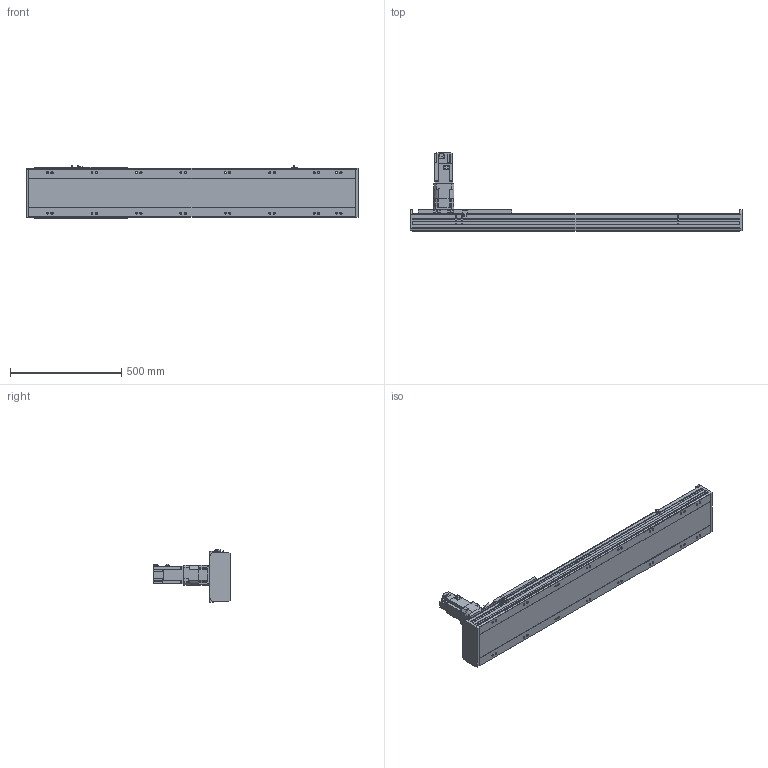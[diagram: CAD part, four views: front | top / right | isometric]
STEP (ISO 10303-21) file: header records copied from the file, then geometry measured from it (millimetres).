
FILE_DESCRIPTION(/* description */ ('STEP AP214'),/* implementation_level */ '2;1');
FILE_NAME(/* name */ 'SHS22A-L13-S1000-BC-T75-C1-N(0)',/* time_stamp */ '2022-06-15T02:26:02+02:00',/* author */ ('License CC BY-ND 4.0'),/* organization */ ('CADENAS'),/* preprocessor_version */ 'ST-DEVELOPER v18.102',/* originating_system */ 'PARTsolutions',/* authorisation */ ' ');
FILE_SCHEMA (('AUTOMOTIVE_DESIGN {1 0 10303 214 3 1 1}'));
Length unit declared in the file: millimetre
Products named in the file (7): SHS22A-L13-S1000-BC-T75-C1-N(0); PSC140-sensor; SHS22A-S1000_body2; T75-p1; SHS22A-S1000_body3; SHS22A-S1000_slider; SHS22A-L13-S1000-BC-T75-C1(0)_body
Assembly tree (13 placements, depth 2):
  SHS22A-L13-S1000-BC-T75-C1-N(0)
    PSC140-sensor  x3
    SHS22A-S1000_body2  x6
    T75-p1
    SHS22A-S1000_body3
    SHS22A-S1000_slider
    SHS22A-L13-S1000-BC-T75-C1(0)_body
Bounding box: 1494 x 350.8 x 238.4 mm (x, y, z)
Volume: 18389279.7 mm3; surface area: 1986940.9 mm2
Topology: 13 solids, 13 shells, 1797 faces, 4639 edges, 3040 vertices
Faces by surface type: plane 1312, cylinder 395, cone 81, torus 9
Full cylindrical faces by diameter (mm): 2.8 x3, 4.2 x2, 4.6 x3, 4.917 x4, 5 x4, 5.6 x24, 6 x31, 6.6 x24, 6.647 x8, 6.8 x9, 7.75 x6, 8 x3, 8.376 x16, 8.5 x16, 10 x4, 11 x4, 12 x24, 14 x16, 22 x1, 24.1 x1, 28 x1, 28.2 x1, 28.8 x1, 48.542 x1, 68 x1, 70 x1, 78 x1, 80 x2
Entity records: 29098 total; most frequent: CARTESIAN_POINT 5141, DIRECTION 4919, ORIENTED_EDGE 4548, EDGE_CURVE 2274, AXIS2_PLACEMENT_3D 1680, VERTEX_POINT 1614, LINE 1559, VECTOR 1559
